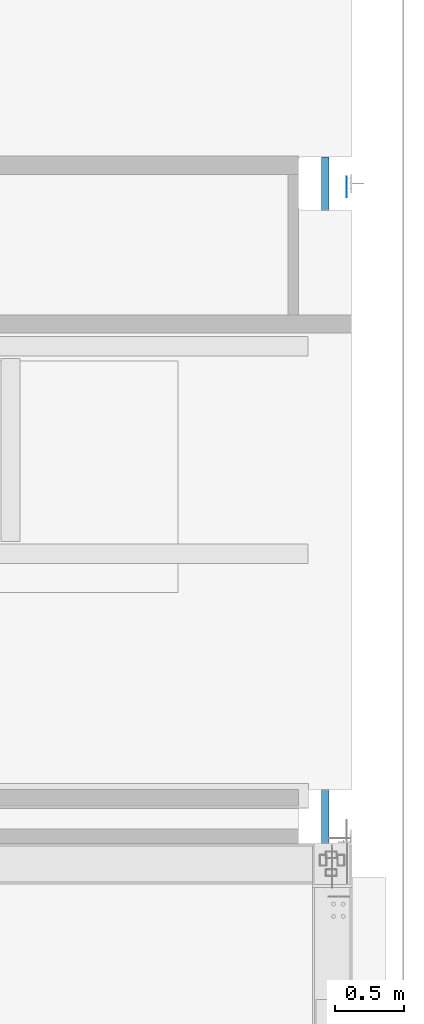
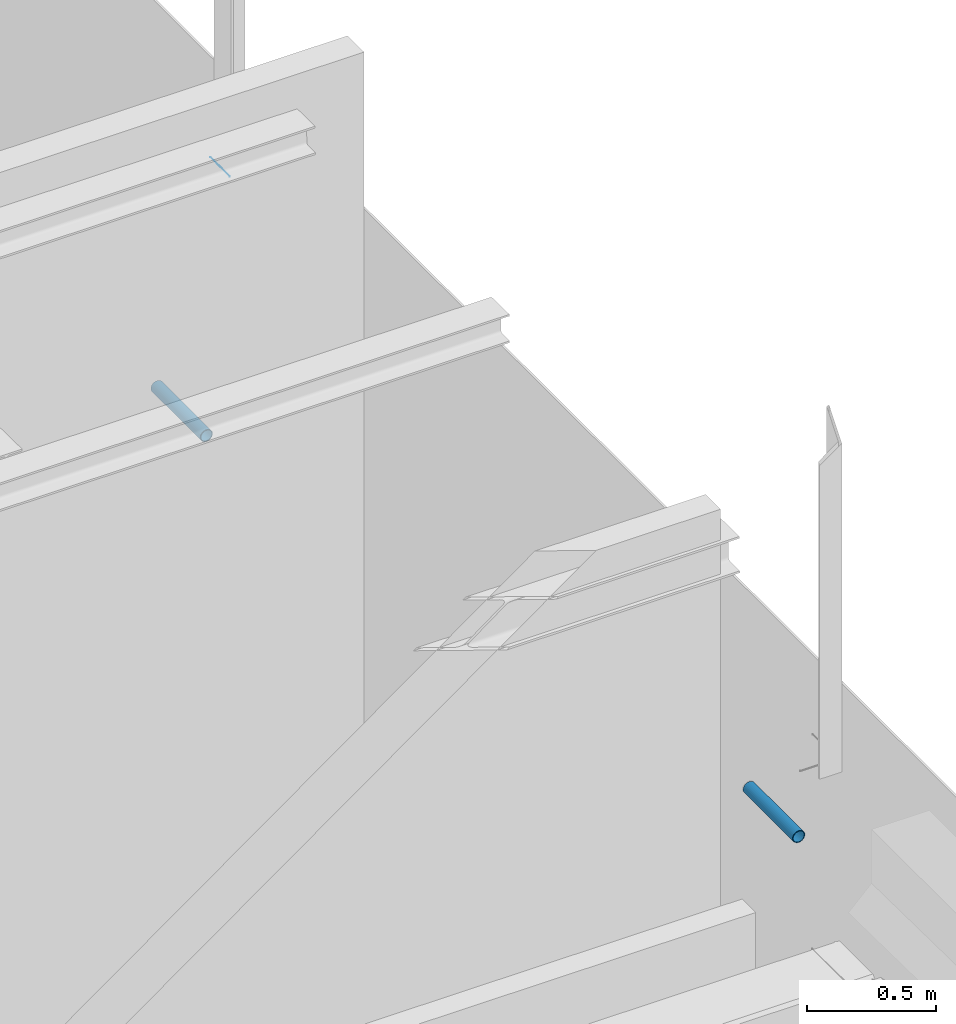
# One storey, part 34 of 186: 3 beams.
"""IFC4X3_ADD2 building model written with IfcOpenShell, lengths in millimetres."""

from ifc_helpers import new_model, si_unit, direction, frame, frame_2d, origin_with_axes, place, context, subcontext, project, spatial, rectangle, hollow_circle, extrude, material, element, save


model = new_model("IFC4X3_ADD2")

# Units and contexts
model_context = context("Model", 3, precision=1e-05, world=origin_with_axes(), true_north=direction((0.0, 1.0)))
body_context = subcontext(model_context, "Body", "Model", "MODEL_VIEW")
ifc_project = project(units=[si_unit("LENGTHUNIT", "METRE", prefix="MILLI"), si_unit("AREAUNIT", "SQUARE_METRE"), si_unit("VOLUMEUNIT", "CUBIC_METRE"), si_unit("PLANEANGLEUNIT", "RADIAN"), si_unit("TIMEUNIT", "SECOND"), si_unit("MASSUNIT", "GRAM")], contexts=[model_context])

# Site, building, storey
site_placement = place(None, origin_with_axes())
site = spatial("IfcSite", under=ifc_project, at=site_placement, Name="Site", CompositionType="ELEMENT")
building_placement = place(site_placement, origin_with_axes())
building = spatial("IfcBuilding", under=site, at=building_placement, Name="IFC Building Story")
storey_placement = place(building_placement, frame((0.0, 0.0, 4370.0), z_axis=(0.0, 0.0, 1.0), x_axis=(1.0, 0.0, 0.0)))
storey = spatial("IfcBuildingStorey", under=building, at=storey_placement, Name="ETAGE 10 (1)", Elevation=4370.0)

# Beams
ifc_material_1 = material(Name="STEEL/Accessory_invisible")
beam_placement = place(storey_placement, frame((48468.6886362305, 4775.0006109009, 3919.5), z_axis=(1.0, 0.0, 0.0), x_axis=(0.0, 0.0, -1.0)))
element("IfcBeam", 1, at=beam_placement, inside=storey, material=ifc_material_1, Name="RH14", ObjectType="1*1 6", context=body_context, shape_type="SweptSolid", body=[
    extrude(rectangle(XDim=0.9999999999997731, YDim=150.000000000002, at=frame_2d((0.0, 5.95523630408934e-12), x_axis=(1.0, 0.0))), origin_with_axes(), (0.0, 0.0, 1.0), 1.0),
])
ifc_material_2 = material(Name="STEEL/Accessory_PVC")
for number, where, z_axis, x_axis, name in (
    (2, (48311.1880000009, 2.99999994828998, 3690.0), (0.0, 1.0, 0.0), (1.0, 0.0, 0.0), "PS13"),
    (3, (48311.1886362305, 4608.00061095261, 2800.781999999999), (0.0, 1.0, 0.0), (1.0, 0.0, 0.0), "PS13"),
):
    element("IfcBeam", number, at=place(storey_placement, frame(where, z_axis=z_axis, x_axis=x_axis)), inside=storey, material=ifc_material_2, Name=name, ObjectType="O56*3", context=body_context, shape_type="SweptSolid", body=[
        extrude(hollow_circle(Radius=28.0, WallThickness=3.0, at=frame_2d((0.0, 5.95523630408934e-12), x_axis=(1.0, 0.0))), origin_with_axes(), (0.0, 0.0, 1.0), 384.0),
    ])

save(model, "model.ifc")
